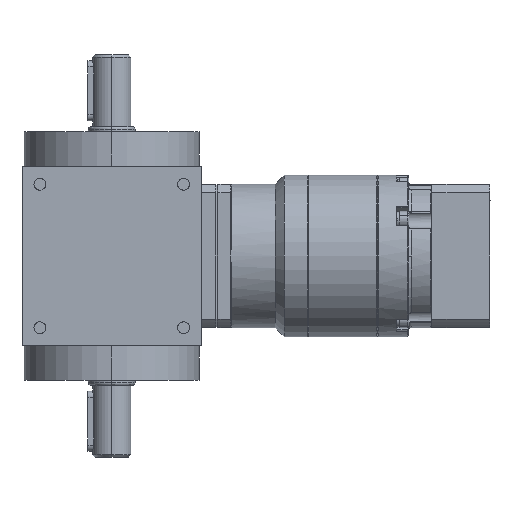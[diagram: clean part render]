
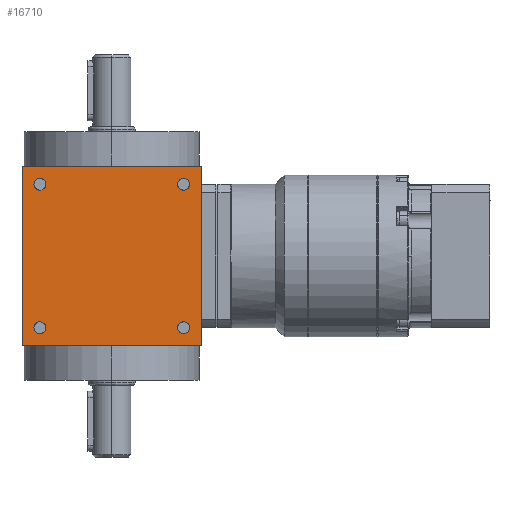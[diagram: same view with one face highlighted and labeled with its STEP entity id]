
A CAD part, left-side view. The second image highlights one B-rep face of the part: STEP entity #16710.
In plain terms, the highlighted planar face has unit normal (-1, 0, 0).
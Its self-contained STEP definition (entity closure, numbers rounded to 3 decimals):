
#750 = FACE_OUTER_BOUND ( 'NONE', #11454, .T. ) ;
#985 = VERTEX_POINT ( 'NONE', #34757 ) ;
#1052 = CARTESIAN_POINT ( 'NONE',  ( -37.5, 30., -30. ) ) ;
#1262 = DIRECTION ( 'NONE',  ( 1., 0., 0. ) ) ;
#1279 = DIRECTION ( 'NONE',  ( 1., 0., 0. ) ) ;
#1412 = PLANE ( 'NONE',  #3831 ) ;
#1737 = CARTESIAN_POINT ( 'NONE',  ( -37.5, 30., 30. ) ) ;
#2077 = CARTESIAN_POINT ( 'NONE',  ( -37.5, -37.5, -37.5 ) ) ;
#2175 = VERTEX_POINT ( 'NONE', #41252 ) ;
#2376 = CARTESIAN_POINT ( 'NONE',  ( -37.5, 37.5, -37.5 ) ) ;
#2683 = DIRECTION ( 'NONE',  ( 1., 0., 0. ) ) ;
#2907 = CIRCLE ( 'NONE', #20585, 2.5 ) ;
#3831 = AXIS2_PLACEMENT_3D ( 'NONE', #43133, #11573, #18273 ) ;
#4420 = CIRCLE ( 'NONE', #44864, 2.5 ) ;
#5122 = CARTESIAN_POINT ( 'NONE',  ( -37.5, -30., 30. ) ) ;
#5656 = DIRECTION ( 'NONE',  ( 0., -1., 0. ) ) ;
#6407 = EDGE_CURVE ( 'NONE', #42392, #985, #36890, .T. ) ;
#6671 = CARTESIAN_POINT ( 'NONE',  ( -37.5, 0., -37.5 ) ) ;
#7413 = AXIS2_PLACEMENT_3D ( 'NONE', #18756, #28645, #22201 ) ;
#7536 = CIRCLE ( 'NONE', #12667, 2.5 ) ;
#7667 = ORIENTED_EDGE ( 'NONE', *, *, #10420, .T. ) ;
#7732 = CARTESIAN_POINT ( 'NONE',  ( -37.5, -37.5, -37.5 ) ) ;
#7878 = FACE_BOUND ( 'NONE', #26218, .T. ) ;
#10016 = CARTESIAN_POINT ( 'NONE',  ( -37.5, -30., -30. ) ) ;
#10174 = CARTESIAN_POINT ( 'NONE',  ( -37.5, -37.5, 37.5 ) ) ;
#10331 = CARTESIAN_POINT ( 'NONE',  ( -37.5, 37.5, -37.5 ) ) ;
#10420 = EDGE_CURVE ( 'NONE', #31075, #37944, #39775, .T. ) ;
#10915 = ORIENTED_EDGE ( 'NONE', *, *, #44303, .T. ) ;
#11371 = FACE_BOUND ( 'NONE', #12843, .T. ) ;
#11454 = EDGE_LOOP ( 'NONE', ( #45510, #34224, #10915, #29756 ) ) ;
#11573 = DIRECTION ( 'NONE',  ( -1., 0., 0. ) ) ;
#12230 = LINE ( 'NONE', #2077, #39463 ) ;
#12667 = AXIS2_PLACEMENT_3D ( 'NONE', #16255, #1279, #40202 ) ;
#12843 = EDGE_LOOP ( 'NONE', ( #32429, #36436 ) ) ;
#13013 = DIRECTION ( 'NONE',  ( 0., 0., 1. ) ) ;
#13442 = DIRECTION ( 'NONE',  ( 0., 0., 1. ) ) ;
#13892 = ORIENTED_EDGE ( 'NONE', *, *, #22835, .T. ) ;
#14857 = VERTEX_POINT ( 'NONE', #36507 ) ;
#15780 = DIRECTION ( 'NONE',  ( 0., 0., 1. ) ) ;
#15815 = DIRECTION ( 'NONE',  ( 1., 0., 0. ) ) ;
#16148 = DIRECTION ( 'NONE',  ( 0., 0., 1. ) ) ;
#16255 = CARTESIAN_POINT ( 'NONE',  ( -37.5, 30., -30. ) ) ;
#16710 = ADVANCED_FACE ( 'NONE', ( #750, #36233, #11371, #32987, #7878 ), #1412, .T. ) ;
#17232 = DIRECTION ( 'NONE',  ( 0., 0., 1. ) ) ;
#17476 = EDGE_CURVE ( 'NONE', #2175, #14857, #38925, .T. ) ;
#17481 = EDGE_LOOP ( 'NONE', ( #7667, #40920 ) ) ;
#17518 = DIRECTION ( 'NONE',  ( 0., -1., 0. ) ) ;
#18079 = VERTEX_POINT ( 'NONE', #44717 ) ;
#18273 = DIRECTION ( 'NONE',  ( 0., 0., 1. ) ) ;
#18614 = CARTESIAN_POINT ( 'NONE',  ( -37.5, 30., 27.5 ) ) ;
#18756 = CARTESIAN_POINT ( 'NONE',  ( -37.5, -30., -30. ) ) ;
#18782 = ORIENTED_EDGE ( 'NONE', *, *, #28530, .T. ) ;
#18983 = EDGE_LOOP ( 'NONE', ( #20271, #13892 ) ) ;
#19314 = VERTEX_POINT ( 'NONE', #10331 ) ;
#19889 = VERTEX_POINT ( 'NONE', #39930 ) ;
#20271 = ORIENTED_EDGE ( 'NONE', *, *, #6407, .T. ) ;
#20305 = VERTEX_POINT ( 'NONE', #10174 ) ;
#20585 = AXIS2_PLACEMENT_3D ( 'NONE', #5122, #33261, #15780 ) ;
#20607 = EDGE_CURVE ( 'NONE', #19314, #38183, #24193, .T. ) ;
#22201 = DIRECTION ( 'NONE',  ( 0., 0., 1. ) ) ;
#22835 = EDGE_CURVE ( 'NONE', #985, #42392, #2907, .T. ) ;
#22931 = AXIS2_PLACEMENT_3D ( 'NONE', #27341, #44157, #38163 ) ;
#24193 = LINE ( 'NONE', #6671, #41287 ) ;
#25363 = VECTOR ( 'NONE', #13442, 1000. ) ;
#26218 = EDGE_LOOP ( 'NONE', ( #42866, #18782 ) ) ;
#26599 = CARTESIAN_POINT ( 'NONE',  ( -37.5, -30., 32.5 ) ) ;
#26936 = AXIS2_PLACEMENT_3D ( 'NONE', #10016, #31230, #13013 ) ;
#27341 = CARTESIAN_POINT ( 'NONE',  ( -37.5, -30., 30. ) ) ;
#28530 = EDGE_CURVE ( 'NONE', #33308, #18079, #4420, .T. ) ;
#28645 = DIRECTION ( 'NONE',  ( 1., 0., 0. ) ) ;
#29756 = ORIENTED_EDGE ( 'NONE', *, *, #33445, .F. ) ;
#29833 = DIRECTION ( 'NONE',  ( 0., 0., 1. ) ) ;
#29858 = LINE ( 'NONE', #40691, #31721 ) ;
#30813 = CARTESIAN_POINT ( 'NONE',  ( -37.5, -30., -27.5 ) ) ;
#31075 = VERTEX_POINT ( 'NONE', #30813 ) ;
#31230 = DIRECTION ( 'NONE',  ( 1., 0., 0. ) ) ;
#31375 = CIRCLE ( 'NONE', #26936, 2.5 ) ;
#31721 = VECTOR ( 'NONE', #5656, 1000. ) ;
#32429 = ORIENTED_EDGE ( 'NONE', *, *, #17476, .T. ) ;
#32987 = FACE_BOUND ( 'NONE', #17481, .T. ) ;
#33037 = AXIS2_PLACEMENT_3D ( 'NONE', #1052, #1262, #36050 ) ;
#33261 = DIRECTION ( 'NONE',  ( 1., 0., 0. ) ) ;
#33308 = VERTEX_POINT ( 'NONE', #18614 ) ;
#33445 = EDGE_CURVE ( 'NONE', #19889, #20305, #29858, .T. ) ;
#34224 = ORIENTED_EDGE ( 'NONE', *, *, #20607, .T. ) ;
#34757 = CARTESIAN_POINT ( 'NONE',  ( -37.5, -30., 27.5 ) ) ;
#35744 = EDGE_CURVE ( 'NONE', #14857, #2175, #7536, .T. ) ;
#36050 = DIRECTION ( 'NONE',  ( 0., 0., 1. ) ) ;
#36233 = FACE_BOUND ( 'NONE', #18983, .T. ) ;
#36436 = ORIENTED_EDGE ( 'NONE', *, *, #35744, .T. ) ;
#36507 = CARTESIAN_POINT ( 'NONE',  ( -37.5, 30., -32.5 ) ) ;
#36890 = CIRCLE ( 'NONE', #22931, 2.5 ) ;
#37944 = VERTEX_POINT ( 'NONE', #40938 ) ;
#38163 = DIRECTION ( 'NONE',  ( 0., 0., 1. ) ) ;
#38183 = VERTEX_POINT ( 'NONE', #7732 ) ;
#38925 = CIRCLE ( 'NONE', #33037, 2.5 ) ;
#39193 = AXIS2_PLACEMENT_3D ( 'NONE', #1737, #15815, #29833 ) ;
#39394 = EDGE_CURVE ( 'NONE', #18079, #33308, #40617, .T. ) ;
#39463 = VECTOR ( 'NONE', #16148, 1000. ) ;
#39775 = CIRCLE ( 'NONE', #7413, 2.5 ) ;
#39930 = CARTESIAN_POINT ( 'NONE',  ( -37.5, 37.5, 37.5 ) ) ;
#40202 = DIRECTION ( 'NONE',  ( 0., 0., 1. ) ) ;
#40617 = CIRCLE ( 'NONE', #39193, 2.5 ) ;
#40691 = CARTESIAN_POINT ( 'NONE',  ( -37.5, 0., 37.5 ) ) ;
#40920 = ORIENTED_EDGE ( 'NONE', *, *, #42543, .T. ) ;
#40938 = CARTESIAN_POINT ( 'NONE',  ( -37.5, -30., -32.5 ) ) ;
#41093 = EDGE_CURVE ( 'NONE', #19314, #19889, #44965, .T. ) ;
#41252 = CARTESIAN_POINT ( 'NONE',  ( -37.5, 30., -27.5 ) ) ;
#41287 = VECTOR ( 'NONE', #17518, 1000. ) ;
#41608 = CARTESIAN_POINT ( 'NONE',  ( -37.5, 30., 30. ) ) ;
#42392 = VERTEX_POINT ( 'NONE', #26599 ) ;
#42543 = EDGE_CURVE ( 'NONE', #37944, #31075, #31375, .T. ) ;
#42866 = ORIENTED_EDGE ( 'NONE', *, *, #39394, .T. ) ;
#43133 = CARTESIAN_POINT ( 'NONE',  ( -37.5, 37.5, -37.5 ) ) ;
#44157 = DIRECTION ( 'NONE',  ( 1., 0., 0. ) ) ;
#44303 = EDGE_CURVE ( 'NONE', #38183, #20305, #12230, .T. ) ;
#44717 = CARTESIAN_POINT ( 'NONE',  ( -37.5, 30., 32.5 ) ) ;
#44864 = AXIS2_PLACEMENT_3D ( 'NONE', #41608, #2683, #17232 ) ;
#44965 = LINE ( 'NONE', #2376, #25363 ) ;
#45510 = ORIENTED_EDGE ( 'NONE', *, *, #41093, .F. ) ;
